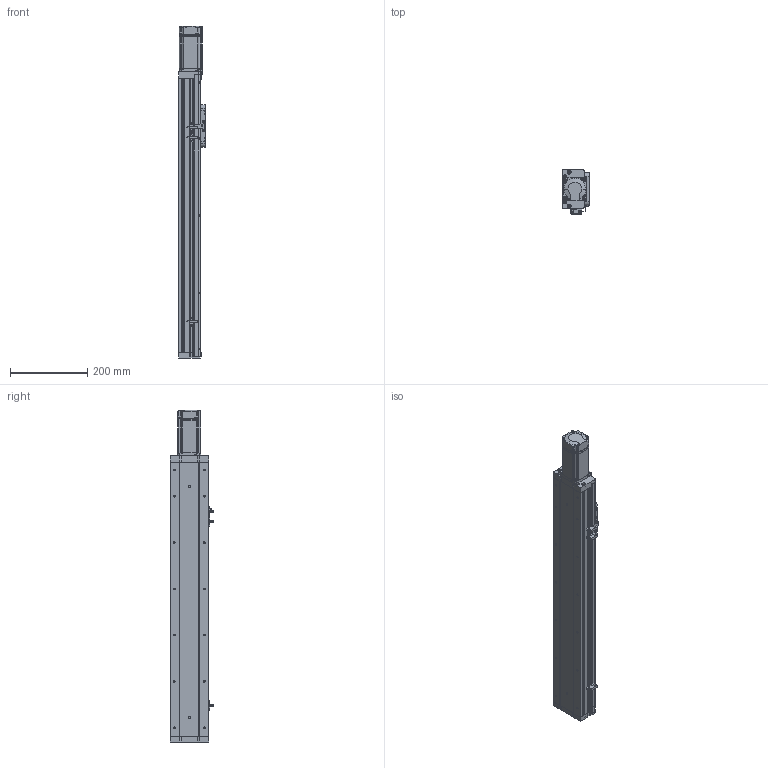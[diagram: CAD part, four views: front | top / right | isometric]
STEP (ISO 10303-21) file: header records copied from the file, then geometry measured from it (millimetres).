
FILE_DESCRIPTION (( 'STEP AP214' ), '1' );
FILE_NAME ('KSD100S-S500-MN-CR.STEP', '2019-09-02T09:16:26', ( '微软用户' ), ( '微软中国' ), 'SwSTEP 2.0', 'SolidWorks 2014', '' );
FILE_SCHEMA (( 'AUTOMOTIVE_DESIGN' ));
Length unit declared in the file: millimetre
Products named in the file (12): 100宽盖板500行程不带电机座; 100宽侧板500行程不带电机座; 100宽底板全封闭500行程不带电机座; KSD100S-S500-MN-CR; MHMD042G1CA_2_03; U倰嫖萇EEㄜSX672; 感应片100宽全封闭; 100宽马达安装板全封闭不带电机座; 100宽端板全封闭; 100宽滚珠螺姆安装板1防护罩; 100宽滚珠螺姆安装板1; 100宽盖板压板不带电机座
Assembly tree (15 placements, depth 2):
  KSD100S-S500-MN-CR
    100宽底板全封闭500行程不带电机座
    100宽侧板500行程不带电机座  x2
    100宽盖板500行程不带电机座
    100宽盖板压板不带电机座  x2
    100宽滚珠螺姆安装板1
    100宽滚珠螺姆安装板1防护罩
    100宽端板全封闭
    100宽马达安装板全封闭不带电机座
    感应片100宽全封闭
    U倰嫖萇EEㄜSX672  x3
    MHMD042G1CA_2_03
Bounding box: 70 x 113.7 x 860.5 mm (x, y, z)
Volume: 1499450.9 mm3; surface area: 669748.7 mm2
Topology: 14 solids, 15 shells, 1504 faces, 4214 edges, 2696 vertices
Faces by surface type: plane 656, cylinder 625, cone 205, bspline 18
Entity records: 51242 total; most frequent: CARTESIAN_POINT 7987, DIRECTION 7009, ORIENTED_EDGE 6532, EDGE_CURVE 3338, AXIS2_PLACEMENT_3D 2482, VERTEX_POINT 2214, VECTOR 2045, LINE 2045
